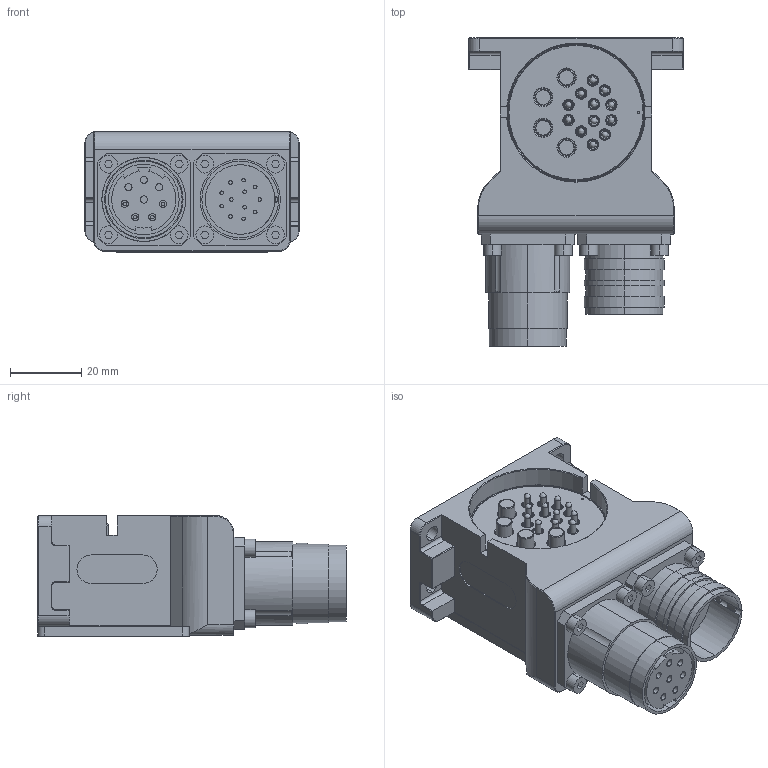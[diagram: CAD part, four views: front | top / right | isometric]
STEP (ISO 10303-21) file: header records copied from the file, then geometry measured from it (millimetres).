
FILE_DESCRIPTION (( 'STEP AP203' ), '1' );
FILE_NAME ('伺服模块治具侧装配.STEP', '2024-08-27T05:08:51', ( 'Windows User' ), ( 'P R C' ), 'SwSTEP 2.0', 'SolidWorks 2018', '' );
FILE_SCHEMA (( 'CONFIG_CONTROL_DESIGN' ));
Length unit declared in the file: millimetre
Products named in the file (1): 伺服模块治具侧装配
Bounding box: 60 x 86.5 x 33.8 mm (x, y, z)
Volume: 95761.4 mm3; surface area: 25145 mm2
Topology: 1 solids, 15 shells, 779 faces, 1803 edges, 1122 vertices
Faces by surface type: plane 341, cylinder 285, cone 125, bspline 20, torus 8
Entity records: 22227 total; most frequent: DIRECTION 4066, CARTESIAN_POINT 4025, ORIENTED_EDGE 3526, EDGE_CURVE 1763, AXIS2_PLACEMENT_3D 1557, VERTEX_POINT 1122, VECTOR 952, LINE 952
